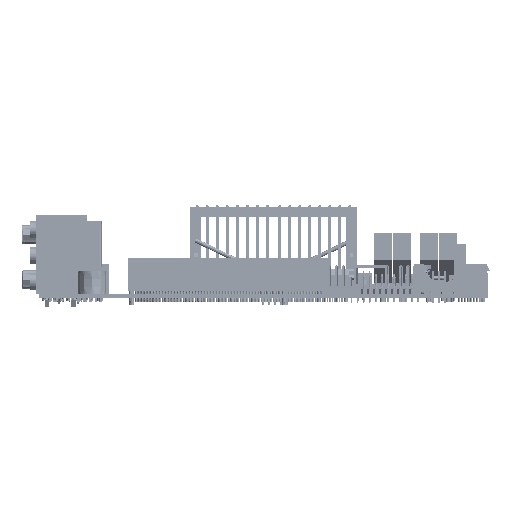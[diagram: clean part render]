
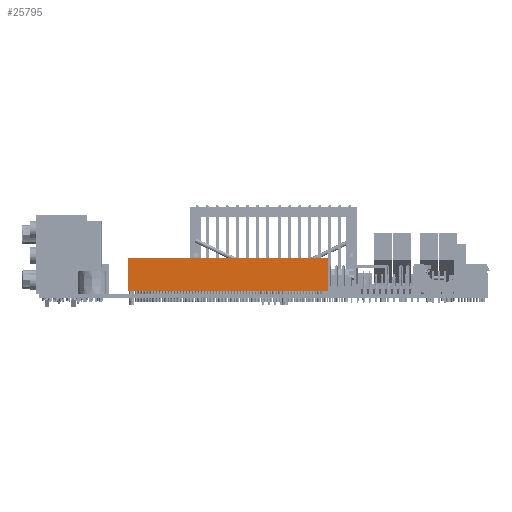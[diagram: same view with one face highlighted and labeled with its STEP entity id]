
A CAD part, front view. The second image highlights one B-rep face of the part: STEP entity #25795.
In plain terms, the highlighted free-form (B-spline) face has degree [1, 1] with [2, 2] control points.
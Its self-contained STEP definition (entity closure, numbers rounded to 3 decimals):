
#16538=DIRECTION('',(1.,0.,0.));
#16539=VECTOR('',#16538,84.84);
#16540=CARTESIAN_POINT('',(-18.29,0.,4.51));
#16541=LINE('',#16540,#16539);
#16678=DIRECTION('',(0.,-1.,0.));
#16679=VECTOR('',#16678,13.99);
#16680=CARTESIAN_POINT('',(66.55,0.,4.51));
#16681=LINE('',#16680,#16679);
#16730=DIRECTION('',(1.,0.,0.));
#16731=VECTOR('',#16730,84.84);
#16732=CARTESIAN_POINT('',(-18.29,-13.99,4.51));
#16733=LINE('',#16732,#16731);
#17510=DIRECTION('',(0.,-1.,0.));
#17511=VECTOR('',#17510,13.99);
#17512=CARTESIAN_POINT('',(-18.29,0.,4.51));
#17513=LINE('',#17512,#17511);
#22549=CARTESIAN_POINT('',(66.55,0.,4.51));
#22551=VERTEX_POINT('',#22549);
#22555=CARTESIAN_POINT('',(-18.29,0.,4.51));
#22556=VERTEX_POINT('',#22555);
#22561=CARTESIAN_POINT('',(-18.29,-13.99,4.51));
#22562=CARTESIAN_POINT('',(66.55,-13.99,4.51));
#22563=VERTEX_POINT('',#22561);
#22564=VERTEX_POINT('',#22562);
#25784=CARTESIAN_POINT('',(-18.29,-13.99,4.51));
#25785=CARTESIAN_POINT('',(-18.29,0.,4.51));
#25786=CARTESIAN_POINT('',(66.55,-13.99,4.51));
#25787=CARTESIAN_POINT('',(66.55,0.,4.51));
#25788=B_SPLINE_SURFACE_WITH_KNOTS('',1,1,((#25784,#25785),(#25786,#25787)),
.UNSPECIFIED.,.F.,.F.,.F.,(2,2),(2,2),(0.,84.84),(-13.99,0.),
.UNSPECIFIED.);
#25789=ORIENTED_EDGE('',*,*,#24423,.T.);
#25790=ORIENTED_EDGE('',*,*,#25211,.T.);
#25791=ORIENTED_EDGE('',*,*,#25263,.F.);
#25792=ORIENTED_EDGE('',*,*,#25723,.F.);
#25793=EDGE_LOOP('',(#25789,#25790,#25791,#25792));
#25794=FACE_OUTER_BOUND('',#25793,.F.);
#25795=ADVANCED_FACE('',(#25794),#25788,.T.);
#24423=EDGE_CURVE('',#22556,#22551,#16541,.T.);
#25211=EDGE_CURVE('',#22551,#22564,#16681,.T.);
#25263=EDGE_CURVE('',#22563,#22564,#16733,.T.);
#25723=EDGE_CURVE('',#22556,#22563,#17513,.T.);
